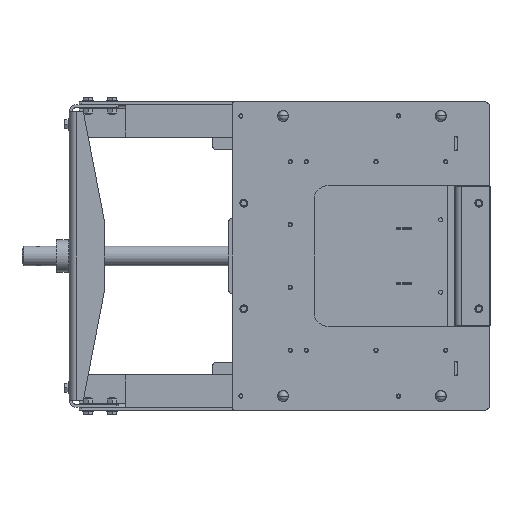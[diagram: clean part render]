
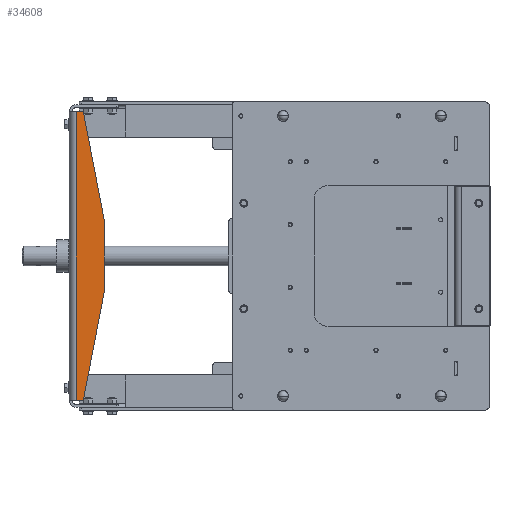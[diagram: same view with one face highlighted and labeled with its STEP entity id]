
A CAD part, left-side view. The second image highlights one B-rep face of the part: STEP entity #34608.
In plain terms, the highlighted planar face has unit normal (-1, 0, 0).
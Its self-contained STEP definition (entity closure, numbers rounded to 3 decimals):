
#2113 = VECTOR ( 'NONE', #26002, 1000. ) ;
#3737 = DIRECTION ( 'NONE',  ( 0., 0., -1. ) ) ;
#4037 = PLANE ( 'NONE',  #35510 ) ;
#4044 = VECTOR ( 'NONE', #3737, 1000. ) ;
#4208 = DIRECTION ( 'NONE',  ( 0., 0.19, -0.982 ) ) ;
#4800 = EDGE_CURVE ( 'NONE', #41964, #58936, #26806, .T. ) ;
#6568 = VERTEX_POINT ( 'NONE', #38618 ) ;
#8038 = CARTESIAN_POINT ( 'NONE',  ( 0., 448., 0. ) ) ;
#9062 = ORIENTED_EDGE ( 'NONE', *, *, #30910, .F. ) ;
#12316 = CARTESIAN_POINT ( 'NONE',  ( 0., 398., -205. ) ) ;
#13164 = LINE ( 'NONE', #58705, #2113 ) ;
#15004 = EDGE_CURVE ( 'NONE', #41964, #6568, #13164, .T. ) ;
#15241 = DIRECTION ( 'NONE',  ( 0., -0.19, -0.982 ) ) ;
#15549 = ORIENTED_EDGE ( 'NONE', *, *, #28184, .F. ) ;
#17005 = EDGE_CURVE ( 'NONE', #24333, #55185, #17495, .T. ) ;
#17495 = LINE ( 'NONE', #12316, #4044 ) ;
#19264 = ORIENTED_EDGE ( 'NONE', *, *, #4800, .F. ) ;
#21210 = CARTESIAN_POINT ( 'NONE',  ( 0., 398., -50. ) ) ;
#21927 = CARTESIAN_POINT ( 'NONE',  ( 0., 390.477, -11.133 ) ) ;
#22113 = EDGE_CURVE ( 'NONE', #23268, #6568, #43262, .T. ) ;
#23268 = VERTEX_POINT ( 'NONE', #47386 ) ;
#24075 = ORIENTED_EDGE ( 'NONE', *, *, #22113, .F. ) ;
#24333 = VERTEX_POINT ( 'NONE', #41661 ) ;
#25281 = VECTOR ( 'NONE', #36243, 1000. ) ;
#26002 = DIRECTION ( 'NONE',  ( 0., 0., -1. ) ) ;
#26806 = LINE ( 'NONE', #55840, #25281 ) ;
#27767 = ORIENTED_EDGE ( 'NONE', *, *, #15004, .T. ) ;
#28184 = EDGE_CURVE ( 'NONE', #55185, #23268, #35969, .T. ) ;
#29292 = EDGE_LOOP ( 'NONE', ( #24075, #15549, #46231, #9062, #19264, #27767 ) ) ;
#30910 = EDGE_CURVE ( 'NONE', #58936, #24333, #47342, .T. ) ;
#31842 = DIRECTION ( 'NONE',  ( -1., 0., 0. ) ) ;
#34448 = CARTESIAN_POINT ( 'NONE',  ( 0., 390.477, 11.133 ) ) ;
#34608 = ADVANCED_FACE ( 'NONE', ( #55387 ), #4037, .T. ) ;
#35495 = DIRECTION ( 'NONE',  ( 0., -1., 0. ) ) ;
#35510 = AXIS2_PLACEMENT_3D ( 'NONE', #8038, #31842, #35495 ) ;
#35969 = LINE ( 'NONE', #21927, #57368 ) ;
#36243 = DIRECTION ( 'NONE',  ( 0., -1., 0. ) ) ;
#36307 = CARTESIAN_POINT ( 'NONE',  ( 0., 438., 205. ) ) ;
#36312 = VECTOR ( 'NONE', #48177, 1000. ) ;
#38618 = CARTESIAN_POINT ( 'NONE',  ( 0., 438., -205. ) ) ;
#39569 = CARTESIAN_POINT ( 'NONE',  ( 0., 444., -205. ) ) ;
#41661 = CARTESIAN_POINT ( 'NONE',  ( 0., 398., 50. ) ) ;
#41964 = VERTEX_POINT ( 'NONE', #36307 ) ;
#43262 = LINE ( 'NONE', #39569, #36312 ) ;
#44859 = CARTESIAN_POINT ( 'NONE',  ( 0., 428., 205. ) ) ;
#46231 = ORIENTED_EDGE ( 'NONE', *, *, #17005, .F. ) ;
#47342 = LINE ( 'NONE', #34448, #52824 ) ;
#47386 = CARTESIAN_POINT ( 'NONE',  ( 0., 428., -205. ) ) ;
#48177 = DIRECTION ( 'NONE',  ( 0., 1., 0. ) ) ;
#52824 = VECTOR ( 'NONE', #15241, 1000. ) ;
#55185 = VERTEX_POINT ( 'NONE', #21210 ) ;
#55387 = FACE_OUTER_BOUND ( 'NONE', #29292, .T. ) ;
#55840 = CARTESIAN_POINT ( 'NONE',  ( 0., 398., 205. ) ) ;
#57368 = VECTOR ( 'NONE', #4208, 1000. ) ;
#58705 = CARTESIAN_POINT ( 'NONE',  ( 0., 438., 0. ) ) ;
#58936 = VERTEX_POINT ( 'NONE', #44859 ) ;
